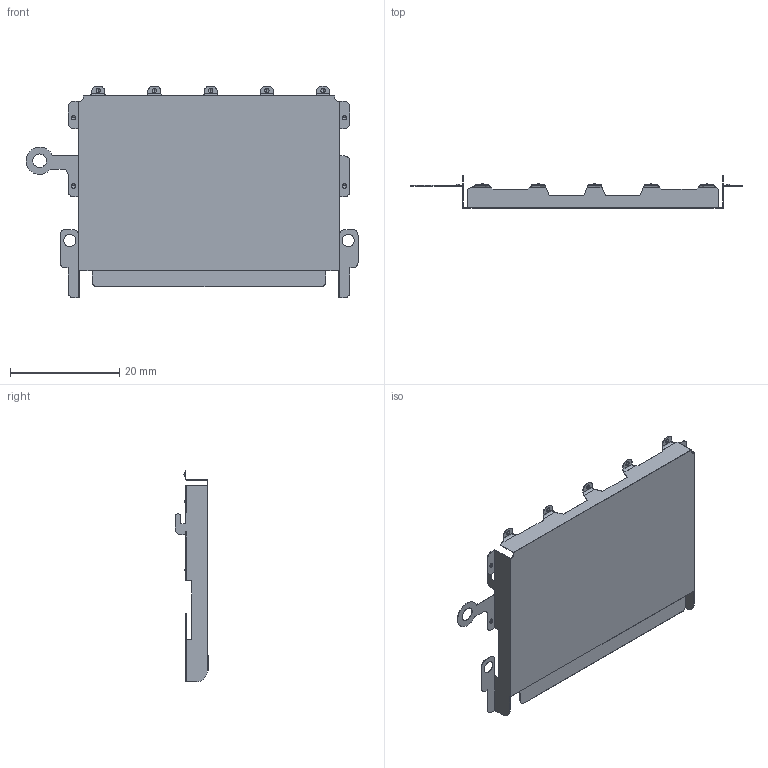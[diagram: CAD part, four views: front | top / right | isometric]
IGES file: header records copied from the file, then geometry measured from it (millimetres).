
Start section:  PTC IGES file: cf_shielding_base_prt.igs
Global section: file name: cf_shielding_base_prt.igs; native system: Pro/ENGINEER by Parametric Technology Corporation; preprocessor: 2000030; author: ECaille; organization: Unknown; date: 000803.091924; units: millimetre
Bounding box: 60.83 x 6.15 x 38.8 mm (x, y, z)
Surface area: 4476.8 mm2 (no closed solid volume)
Topology: 0 solids, 0 shells, 196 faces, 1755 edges, 2362 vertices
Faces by surface type: bspline 107, revolution 89
